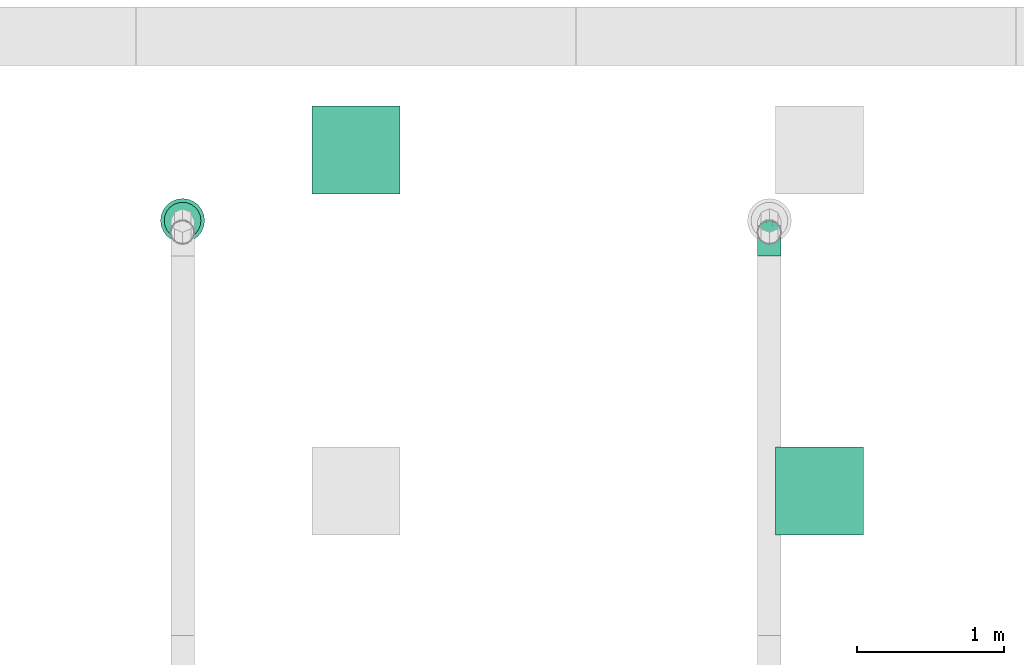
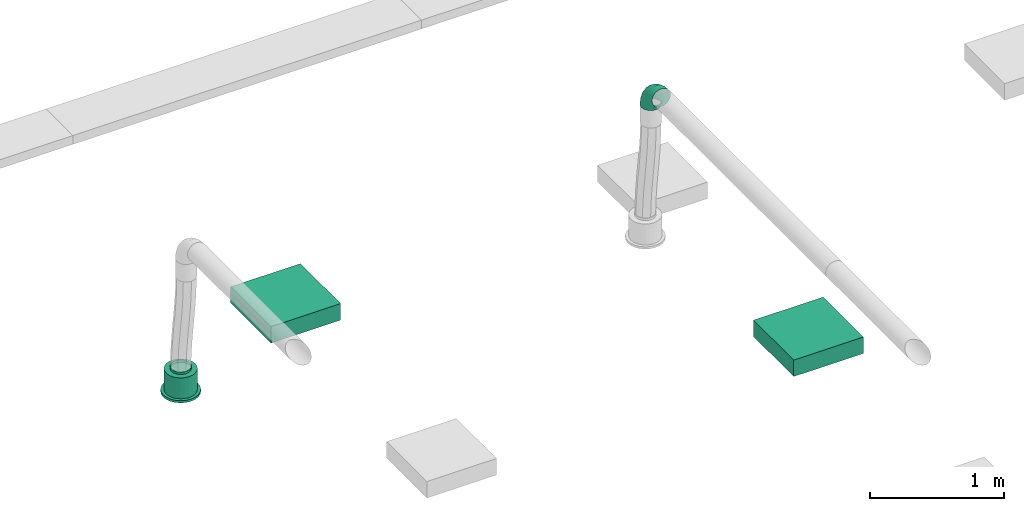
# One storey, part 43 of 374: 2 distribution elements, 1 flow fitting, 1 flow terminal.
"""IFC2X3 building model written with IfcOpenShell, lengths in metres."""

import ifcopenshell
import ifcopenshell.guid

model = None  # the IFC model being written
_history = None  # IfcOwnerHistory: only IFC2X3 demands one
_inside = {}  # id of a spatial element -> (the spatial element, [elements in it])
_under = {}  # id of a project, library or spatial element -> (it, [spatial elements below it])
_declared = {}  # id of a project -> (the project, [libraries it declares])
_typed = {}  # id of a type object -> (the type object, [elements of that type])
_made_of = {}  # id of a material, layer set ... -> (it, [elements and type objects made of it])


def new_model(schema):
    """Start an empty IFC model of exactly this schema.

    Asked for "IFC4X3", IfcOpenShell would pick the latest addendum, in which some entities
    have other attributes; the version numbers below select the first issue.
    IFC2X3 requires an IfcOwnerHistory on every rooted entity: one is made here for all.
    """
    global model, _history
    if schema == "IFC4X3":
        model = ifcopenshell.file(schema_version=(4, 3, 0, 0))
    else:
        model = ifcopenshell.file(schema=schema)
    _inside.clear()
    _under.clear()
    _declared.clear()
    _typed.clear()
    _made_of.clear()
    _history = None
    if model.schema == "IFC2X3":
        org = make("IfcOrganization", Name="unknown")
        user = make(
            "IfcPersonAndOrganization",
            ThePerson=make("IfcPerson", FamilyName="unknown"),
            TheOrganization=org,
        )
        app = make(
            "IfcApplication",
            ApplicationDeveloper=org,
            Version="unknown",
            ApplicationFullName="unknown",
            ApplicationIdentifier="unknown",
        )
        _history = make(
            "IfcOwnerHistory",
            OwningUser=user,
            OwningApplication=app,
            ChangeAction="ADDED",
            CreationDate=0,
        )
    return model


def make(cls, **values):
    """One entity of the class cls with the attributes given. An attribute that is None is left unset."""
    return model.create_entity(
        cls, **{name: value for name, value in values.items() if value is not None}
    )


def rooted(cls, **values):
    """An entity with a GlobalId (a new one), such as an element, a storey or a relation."""
    return make(cls, GlobalId=ifcopenshell.guid.new(), OwnerHistory=_history, **values)


def si_unit(unit_type, name, prefix=None):
    """IfcSIUnit, for example si_unit("LENGTHUNIT", "METRE", prefix="MILLI")."""
    return make("IfcSIUnit", UnitType=unit_type, Prefix=prefix, Name=name)


def assignment(units):
    """IfcUnitAssignment: the units of a project."""
    return None if units is None else make("IfcUnitAssignment", Units=units)


def point(xyz):
    """IfcCartesianPoint."""
    return None if xyz is None else make("IfcCartesianPoint", Coordinates=xyz)


def direction(xyz):
    """IfcDirection."""
    return None if xyz is None else make("IfcDirection", DirectionRatios=xyz)


def frame(location, z_axis=None, x_axis=None):
    """IfcAxis2Placement3D, a coordinate frame: its origin and axes. An axis left out is left unset."""
    return make(
        "IfcAxis2Placement3D",
        Location=point(location),
        Axis=direction(z_axis),
        RefDirection=direction(x_axis),
    )


def frame_2d(location, x_axis=None):
    """IfcAxis2Placement2D, a coordinate frame in the plane: its origin and x axis."""
    return make(
        "IfcAxis2Placement2D", Location=point(location), RefDirection=direction(x_axis)
    )


def origin():
    """The frame at (0, 0, 0) with its axes left unset."""
    return frame((0.0, 0.0, 0.0))


def place(relative_to, where):
    """IfcLocalPlacement: puts the frame where relative to a parent placement (None: the world)."""
    return make(
        "IfcLocalPlacement", PlacementRelTo=relative_to, RelativePlacement=where
    )


def context(
    kind, dimensions, precision=None, world=None, true_north=None, identifier=None
):
    """IfcGeometricRepresentationContext, for example the 3D "Model" context."""
    return make(
        "IfcGeometricRepresentationContext",
        ContextIdentifier=identifier,
        ContextType=kind,
        CoordinateSpaceDimension=dimensions,
        Precision=precision,
        WorldCoordinateSystem=world,
        TrueNorth=true_north,
    )


def subcontext(parent, identifier, kind, view, scale=None):
    """IfcGeometricRepresentationSubContext, for example "Body" below "Model"."""
    return make(
        "IfcGeometricRepresentationSubContext",
        ContextIdentifier=identifier,
        ContextType=kind,
        ParentContext=parent,
        TargetScale=scale,
        TargetView=view,
    )


def project(units=None, contexts=None):
    """IfcProject with its units and contexts."""
    return rooted(
        "IfcProject",
        Name="project",
        RepresentationContexts=contexts,
        UnitsInContext=assignment(units),
    )


def spatial(cls, under=None, at=None, **own):
    """A site, building, storey or space (cls), placed at a placement, below another one or the project."""
    s = rooted(cls, ObjectPlacement=at, **own)
    if under is not None:
        _under.setdefault(under.id(), (under, []))[1].append(s)
    return s


def profile(cls, at=None, kind="AREA", **sizes):
    """A parametric profile (cls). Its sizes go by their IFC names, for example OverallWidth=200.0."""
    return make(cls, ProfileType=kind, Position=at, **sizes)


def rectangle(**sizes):
    """IfcRectangleProfileDef."""
    return profile("IfcRectangleProfileDef", **sizes)


def extrude(swept, where, along, depth):
    """IfcExtrudedAreaSolid: the profile swept, set in the frame where, extruded along a direction by depth."""
    return make(
        "IfcExtrudedAreaSolid",
        SweptArea=swept,
        Position=where,
        ExtrudedDirection=direction(along),
        Depth=depth,
    )


def faces_of(points, faces, orient=None, outer=None):
    """IfcFace entities. A face is a list of loops; a loop is a list of indices into points, from 0.

    orient and outer hold one flag for each loop. By default every Orientation is true, the
    first loop of a face is its IfcFaceOuterBound and the others are IfcFaceBound.
    """
    made = []
    for i, loops in enumerate(faces):
        bounds = []
        for j, loop in enumerate(loops):
            is_outer = j == 0 if outer is None else outer[i][j]
            bounds.append(
                make(
                    "IfcFaceOuterBound" if is_outer else "IfcFaceBound",
                    Bound=make("IfcPolyLoop", Polygon=[points[k] for k in loop]),
                    Orientation=True if orient is None else orient[i][j],
                )
            )
        made.append(make("IfcFace", Bounds=bounds))
    return made


def open_shell(faces, orient=None, outer=None):
    """The faces of one IfcOpenShell. surface_model builds it on its shared points."""
    return ("IfcOpenShell", faces, orient, outer)


def surface_model(cls, points, shells):
    """IfcFaceBasedSurfaceModel or IfcShellBasedSurfaceModel (cls): surfaces that need not close."""
    shared = [point(p) for p in points]
    made = [make(c, CfsFaces=faces_of(shared, fs, o, b)) for c, fs, o, b in shells]
    if cls == "IfcFaceBasedSurfaceModel":
        return make(cls, FbsmFaces=made)
    return make(cls, SbsmBoundary=made)


def shape(context_of_items, identifier, shape_type, items):
    """IfcShapeRepresentation: the items that make up one representation, for example the "Body"."""
    return make(
        "IfcShapeRepresentation",
        ContextOfItems=context_of_items,
        RepresentationIdentifier=identifier,
        RepresentationType=shape_type,
        Items=items,
    )


def source(mapping_origin, context_of_items, identifier, shape_type, items):
    """IfcRepresentationMap: a shape defined once, which mapped items show again and again."""
    return make(
        "IfcRepresentationMap",
        MappingOrigin=mapping_origin,
        MappedRepresentation=shape(context_of_items, identifier, shape_type, items),
    )


def transform(
    local_origin,
    x_axis=None,
    y_axis=None,
    z_axis=None,
    scale=None,
    scale2=None,
    scale3=None,
    uniform=True,
):
    """IfcCartesianTransformationOperator3D, or its non-uniform kind. x_axis, y_axis, z_axis: its Axis1, 2, 3."""
    if uniform:
        return make(
            "IfcCartesianTransformationOperator3D",
            Axis1=direction(x_axis),
            Axis2=direction(y_axis),
            LocalOrigin=point(local_origin),
            Scale=scale,
            Axis3=direction(z_axis),
        )
    return make(
        "IfcCartesianTransformationOperator3DnonUniform",
        Axis1=direction(x_axis),
        Axis2=direction(y_axis),
        LocalOrigin=point(local_origin),
        Scale=scale,
        Axis3=direction(z_axis),
        Scale2=scale2,
        Scale3=scale3,
    )


def mapped(mapping_source, mapping_target):
    """IfcMappedItem: shows the shape of a source again, moved by a transform."""
    return make(
        "IfcMappedItem", MappingSource=mapping_source, MappingTarget=mapping_target
    )


def made_of(thing, what):
    """Note that an element or type object is made of a material, layer set ...; save() writes the relation."""
    if what is not None:
        _made_of.setdefault(what.id(), (what, []))[1].append(thing)
    return thing


def element(
    cls,
    number,
    at=None,
    inside=None,
    cuts=None,
    type_object=None,
    material=None,
    context=None,
    identifier="Body",
    shape_type=None,
    held_by="IfcProductDefinitionShape",
    body=None,
    shapes=None,
    **own,
):
    """One element of the class cls, such as IfcWall. Its Tag is "e" and its number.

    at: its placement. inside: the storey or other place that contains it. cuts: it is an
    opening in that element (IfcRelVoidsElement). A single representation is given by context,
    identifier, shape_type and body (its items); several are given by shapes. held_by: the class
    of the entity that holds the representations. save() writes the other relations.
    """
    e = rooted(cls, Tag="e%d" % number, ObjectPlacement=at, **own)
    if body is not None:
        shapes = [shape(context, identifier, shape_type, body)]
    if shapes is not None:
        e.Representation = make(held_by, Representations=shapes)
    if inside is not None:
        _inside.setdefault(inside.id(), (inside, []))[1].append(e)
    if cuts is not None:
        rooted(
            "IfcRelVoidsElement", RelatingBuildingElement=cuts, RelatedOpeningElement=e
        )
    if type_object is not None:
        _typed.setdefault(type_object.id(), (type_object, []))[1].append(e)
    return made_of(e, material)


def aggregate(whole, parts):
    """IfcRelAggregates: a whole, such as a stair, and the parts it consists of."""
    return rooted("IfcRelAggregates", RelatingObject=whole, RelatedObjects=parts)


def save(model, path):
    """Write the relations noted so far, then the file.

    IfcRelAggregates (storeys below a building ...), IfcRelContainedInSpatialStructure (elements
    in a storey), IfcRelDefinesByType, IfcRelAssociatesMaterial and IfcRelDeclares: one each for
    every whole, place, type object, material and project.
    """
    for whole, parts in _under.values():
        aggregate(whole, parts)
    for where, things in _inside.values():
        rooted(
            "IfcRelContainedInSpatialStructure",
            RelatedElements=things,
            RelatingStructure=where,
        )
    for kind, things in _typed.values():
        rooted("IfcRelDefinesByType", RelatedObjects=things, RelatingType=kind)
    for what, things in _made_of.values():
        rooted("IfcRelAssociatesMaterial", RelatedObjects=things, RelatingMaterial=what)
    for by, libraries in _declared.values():
        rooted("IfcRelDeclares", RelatingContext=by, RelatedDefinitions=libraries)
    model.write(path)


model = new_model("IFC2X3")

# Units and contexts
model_context = context("Model", 3, precision=1e-05, world=origin(), true_north=direction((-0.4480736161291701, 0.8939966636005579)))
body_context = subcontext(model_context, "Body", "Model", "MODEL_VIEW")
ifc_project = project(units=[si_unit("LENGTHUNIT", "METRE"), si_unit("AREAUNIT", "SQUARE_METRE"), si_unit("VOLUMEUNIT", "CUBIC_METRE"), si_unit("PLANEANGLEUNIT", "RADIAN"), si_unit("THERMODYNAMICTEMPERATUREUNIT", "KELVIN"), si_unit("MASSUNIT", "GRAM", prefix="KILO"), si_unit("TIMEUNIT", "SECOND")], contexts=[model_context])

# Site, building, storey
site_placement = place(None, origin())
site = spatial("IfcSite", under=ifc_project, at=site_placement, Name="Site 1", CompositionType="ELEMENT")
building_placement = place(site_placement, origin())
building = spatial("IfcBuilding", under=site, at=building_placement, Name="Undefined", CompositionType="ELEMENT")
storey_placement = place(building_placement, origin())
storey = spatial("IfcBuildingStorey", under=building, at=storey_placement, Name="Rez de chauss\x8ee", CompositionType="ELEMENT", Elevation=0.0)

# Flow terminal
shared_shape_1 = source(origin(), body_context, "Body", "SurfaceModel", [
    surface_model("IfcFaceBasedSurfaceModel", [(0.0, 0.0, 0.0), (0.03915785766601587, 0.0, 0.0), (0.03915785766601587, 0.020000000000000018, 0.0), (3.552713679e-15, 0.020000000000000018, 0.0), (0.07698144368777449, 0.0, -0.010134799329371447), (0.07698144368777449, 0.020000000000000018, -0.010134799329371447), (0.11089314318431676, 0.0, -0.02971372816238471), (0.11089314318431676, 0.020000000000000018, -0.02971372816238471), (0.13858192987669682, 0.0, -0.05740251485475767), (0.13858192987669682, 0.020000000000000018, -0.05740251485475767), (0.15816085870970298, 0.0, -0.09131421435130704), (0.15816085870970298, 0.020000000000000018, -0.09131421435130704), (0.16829565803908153, 0.0, -0.12913780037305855), (0.16829565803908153, 0.020000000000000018, -0.12913780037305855), (0.16829565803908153, 0.0, -0.16829565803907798), (0.16829565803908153, 0.020000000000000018, -0.16829565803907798), (0.15816085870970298, 0.0, -0.20611924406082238), (0.15816085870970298, 0.020000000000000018, -0.20611924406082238), (0.13858192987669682, 0.0, -0.24003094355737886), (0.13858192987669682, 0.020000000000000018, -0.24003094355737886), (0.11089314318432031, 0.0, -0.2677197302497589), (0.11089314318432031, 0.020000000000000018, -0.2677197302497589), (0.07698144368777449, 0.0, -0.2872986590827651), (0.07698144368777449, 0.020000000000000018, -0.2872986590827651), (0.039157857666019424, 0.0, -0.29743345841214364), (0.039157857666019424, 0.020000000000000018, -0.29743345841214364), (3.552713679e-15, 0.0, -0.29743345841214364), (3.552713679e-15, 0.020000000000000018, -0.29743345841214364), (-0.03782358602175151, 0.0, -0.2872986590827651), (-0.03782358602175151, 0.020000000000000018, -0.2872986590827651), (-0.07173528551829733, 0.0, -0.2677197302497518), (-0.07173528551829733, 0.020000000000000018, -0.2677197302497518), (-0.0994240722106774, 0.0, -0.24003094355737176), (-0.0994240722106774, 0.020000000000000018, -0.24003094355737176), (-0.11900300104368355, 0.0, -0.2061192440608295), (-0.11900300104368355, 0.020000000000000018, -0.2061192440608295), (-0.1291378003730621, 0.0, -0.16829565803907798), (-0.1291378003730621, 0.020000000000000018, -0.16829565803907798), (-0.1291378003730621, 0.0, -0.12913780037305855), (-0.1291378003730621, 0.020000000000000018, -0.12913780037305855), (-0.11900300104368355, 0.0, -0.09131421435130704), (-0.11900300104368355, 0.020000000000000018, -0.09131421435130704), (-0.0994240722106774, 0.0, -0.05740251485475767), (-0.0994240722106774, 0.020000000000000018, -0.05740251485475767), (-0.07173528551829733, 0.0, -0.029713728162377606), (-0.07173528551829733, 0.020000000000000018, -0.029713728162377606), (-0.03782358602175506, 0.0, -0.010134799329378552), (-0.03782358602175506, 0.020000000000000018, -0.010134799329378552), (0.019578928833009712, 0.0, -0.14871672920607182), (0.019578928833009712, 0.020000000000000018, -0.14871672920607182), (0.003263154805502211, 0.020000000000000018, -0.02478612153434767), (0.035894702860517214, 0.020000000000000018, -0.02478612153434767), (0.035894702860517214, 0.20999999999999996, -0.02478612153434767), (0.003263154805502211, 0.20999999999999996, -0.02478612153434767), (0.06741435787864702, 0.020000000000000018, -0.033231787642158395), (0.06741435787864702, 0.20999999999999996, -0.033231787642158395), (0.0956741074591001, 0.020000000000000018, -0.04954756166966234), (0.0956741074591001, 0.20999999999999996, -0.04954756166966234), (0.11874809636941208, 0.020000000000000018, -0.07262155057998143), (0.11874809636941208, 0.20999999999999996, -0.07262155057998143), (0.13506387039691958, 0.020000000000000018, -0.10088130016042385), (0.13506387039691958, 0.20999999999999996, -0.10088130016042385), (0.1435095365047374, 0.020000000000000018, -0.13240095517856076), (0.1435095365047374, 0.20999999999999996, -0.13240095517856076), (0.1435095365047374, 0.020000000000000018, -0.16503250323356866), (0.1435095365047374, 0.20999999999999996, -0.16503250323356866), (0.13506387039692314, 0.020000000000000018, -0.19655215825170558), (0.13506387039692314, 0.20999999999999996, -0.19655215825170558), (0.11874809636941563, 0.020000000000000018, -0.2248119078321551), (0.11874809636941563, 0.20999999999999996, -0.2248119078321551), (0.09567410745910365, 0.020000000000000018, -0.24788589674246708), (0.09567410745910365, 0.20999999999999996, -0.24788589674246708), (0.06741435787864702, 0.020000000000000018, -0.26420167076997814), (0.06741435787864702, 0.20999999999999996, -0.26420167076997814), (0.035894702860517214, 0.020000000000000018, -0.27264733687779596), (0.035894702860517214, 0.20999999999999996, -0.27264733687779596), (0.0032631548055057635, 0.020000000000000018, -0.27264733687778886), (0.0032631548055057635, 0.20999999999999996, -0.27264733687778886), (-0.028256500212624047, 0.020000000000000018, -0.26420167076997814), (-0.028256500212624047, 0.20999999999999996, -0.26420167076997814), (-0.05651624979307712, 0.020000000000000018, -0.2478858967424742), (-0.05651624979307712, 0.20999999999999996, -0.2478858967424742), (-0.07959023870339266, 0.020000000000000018, -0.2248119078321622), (-0.07959023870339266, 0.20999999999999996, -0.2248119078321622), (-0.09590601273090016, 0.020000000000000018, -0.19655215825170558), (-0.09590601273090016, 0.20999999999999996, -0.19655215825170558), (-0.10435167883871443, 0.020000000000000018, -0.16503250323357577), (-0.10435167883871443, 0.20999999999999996, -0.16503250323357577), (-0.10435167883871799, 0.020000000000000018, -0.13240095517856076), (-0.10435167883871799, 0.20999999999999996, -0.13240095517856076), (-0.09590601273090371, 0.020000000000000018, -0.10088130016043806), (-0.09590601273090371, 0.20999999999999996, -0.10088130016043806), (-0.07959023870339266, 0.020000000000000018, -0.07262155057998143), (-0.07959023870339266, 0.20999999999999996, -0.07262155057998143), (-0.056516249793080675, 0.020000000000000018, -0.04954756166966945), (-0.056516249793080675, 0.20999999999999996, -0.04954756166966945), (-0.028256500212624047, 0.020000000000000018, -0.033231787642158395), (-0.028256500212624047, 0.20999999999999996, -0.033231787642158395), (0.019578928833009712, 0.20999999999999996, -0.14871672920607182), (0.009136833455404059, 0.20999999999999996, -0.06940114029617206), (0.030021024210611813, 0.20999999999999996, -0.06940114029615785), (0.030021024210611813, 0.22999999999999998, -0.06940114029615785), (0.009136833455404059, 0.22999999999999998, -0.06940114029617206), (0.05019360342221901, 0.20999999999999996, -0.07480636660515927), (0.05019360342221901, 0.22999999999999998, -0.07480636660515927), (0.06827984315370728, 0.20999999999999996, -0.08524846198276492), (0.06827984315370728, 0.22999999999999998, -0.08524846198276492), (0.0830471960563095, 0.20999999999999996, -0.10001581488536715), (0.0830471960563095, 0.22999999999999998, -0.10001581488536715), (0.0934892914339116, 0.20999999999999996, -0.11810205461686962), (0.0934892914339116, 0.22999999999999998, -0.11810205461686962), (0.09889451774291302, 0.20999999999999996, -0.13827463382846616), (0.09889451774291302, 0.22999999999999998, -0.13827463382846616), (0.09889451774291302, 0.20999999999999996, -0.15915882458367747), (0.09889451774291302, 0.22999999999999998, -0.15915882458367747), (0.09348929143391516, 0.20999999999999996, -0.179331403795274), (0.09348929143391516, 0.22999999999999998, -0.179331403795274), (0.0830471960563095, 0.20999999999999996, -0.19741764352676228), (0.0830471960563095, 0.22999999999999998, -0.19741764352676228), (0.06827984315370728, 0.20999999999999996, -0.2121849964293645), (0.06827984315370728, 0.22999999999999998, -0.2121849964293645), (0.05019360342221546, 0.20999999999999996, -0.22262709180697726), (0.05019360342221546, 0.22999999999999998, -0.22262709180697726), (0.030021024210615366, 0.20999999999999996, -0.22803231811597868), (0.030021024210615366, 0.22999999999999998, -0.22803231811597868), (0.009136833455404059, 0.20999999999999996, -0.22803231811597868), (0.009136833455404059, 0.22999999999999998, -0.22803231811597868), (-0.011035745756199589, 0.20999999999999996, -0.22262709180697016), (-0.011035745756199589, 0.22999999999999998, -0.22262709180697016), (-0.0291219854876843, 0.20999999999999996, -0.2121849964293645), (-0.0291219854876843, 0.22999999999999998, -0.2121849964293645), (-0.043889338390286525, 0.20999999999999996, -0.19741764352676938), (-0.043889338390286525, 0.22999999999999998, -0.19741764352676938), (-0.05433143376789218, 0.20999999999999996, -0.17933140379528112), (-0.05433143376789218, 0.22999999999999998, -0.17933140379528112), (-0.05973666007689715, 0.20999999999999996, -0.15915882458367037), (-0.05973666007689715, 0.22999999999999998, -0.15915882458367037), (-0.0597366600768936, 0.20999999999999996, -0.13827463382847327), (-0.0597366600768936, 0.22999999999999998, -0.13827463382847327), (-0.05433143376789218, 0.20999999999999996, -0.11810205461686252), (-0.05433143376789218, 0.22999999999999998, -0.11810205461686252), (-0.043889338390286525, 0.20999999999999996, -0.10001581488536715), (-0.043889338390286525, 0.22999999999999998, -0.10001581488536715), (-0.02912198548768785, 0.20999999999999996, -0.08524846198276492), (-0.02912198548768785, 0.22999999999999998, -0.08524846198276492), (-0.011035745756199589, 0.20999999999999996, -0.07480636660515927), (-0.011035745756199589, 0.22999999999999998, -0.07480636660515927)], [open_shell([[[0, 1, 2, 3]], [[1, 4, 5, 2]], [[4, 6, 7, 5]], [[6, 8, 9, 7]], [[8, 10, 11, 9]], [[10, 12, 13, 11]], [[12, 14, 15, 13]], [[14, 16, 17, 15]], [[16, 18, 19, 17]], [[18, 20, 21, 19]], [[20, 22, 23, 21]], [[22, 24, 25, 23]], [[24, 26, 27, 25]], [[26, 28, 29, 27]], [[28, 30, 31, 29]], [[30, 32, 33, 31]], [[32, 34, 35, 33]], [[34, 36, 37, 35]], [[36, 38, 39, 37]], [[38, 40, 41, 39]], [[40, 42, 43, 41]], [[42, 44, 45, 43]], [[44, 46, 47, 45]], [[46, 0, 3, 47]], [[48, 1, 0]], [[48, 4, 1]], [[48, 6, 4]], [[48, 8, 6]], [[48, 10, 8]], [[48, 12, 10]], [[48, 14, 12]], [[48, 16, 14]], [[48, 18, 16]], [[48, 20, 18]], [[48, 22, 20]], [[48, 24, 22]], [[48, 26, 24]], [[48, 28, 26]], [[48, 30, 28]], [[48, 32, 30]], [[48, 34, 32]], [[48, 36, 34]], [[48, 38, 36]], [[48, 40, 38]], [[48, 42, 40]], [[48, 44, 42]], [[48, 46, 44]], [[48, 0, 46]], [[49, 47, 3]], [[49, 45, 47]], [[49, 43, 45]], [[49, 41, 43]], [[49, 39, 41]], [[49, 37, 39]], [[49, 35, 37]], [[49, 33, 35]], [[49, 31, 33]], [[49, 29, 31]], [[49, 27, 29]], [[49, 25, 27]], [[49, 23, 25]], [[49, 21, 23]], [[49, 19, 21]], [[49, 17, 19]], [[49, 15, 17]], [[49, 13, 15]], [[49, 11, 13]], [[49, 9, 11]], [[49, 7, 9]], [[49, 5, 7]], [[49, 2, 5]], [[49, 3, 2]], [[50, 51, 52, 53]], [[51, 54, 55, 52]], [[54, 56, 57, 55]], [[56, 58, 59, 57]], [[58, 60, 61, 59]], [[60, 62, 63, 61]], [[62, 64, 65, 63]], [[64, 66, 67, 65]], [[66, 68, 69, 67]], [[68, 70, 71, 69]], [[70, 72, 73, 71]], [[72, 74, 75, 73]], [[74, 76, 77, 75]], [[76, 78, 79, 77]], [[78, 80, 81, 79]], [[80, 82, 83, 81]], [[82, 84, 85, 83]], [[84, 86, 87, 85]], [[86, 88, 89, 87]], [[88, 90, 91, 89]], [[90, 92, 93, 91]], [[92, 94, 95, 93]], [[94, 96, 97, 95]], [[96, 50, 53, 97]], [[49, 51, 50]], [[49, 54, 51]], [[49, 56, 54]], [[49, 58, 56]], [[49, 60, 58]], [[49, 62, 60]], [[49, 64, 62]], [[49, 66, 64]], [[49, 68, 66]], [[49, 70, 68]], [[49, 72, 70]], [[49, 74, 72]], [[49, 76, 74]], [[49, 78, 76]], [[49, 80, 78]], [[49, 82, 80]], [[49, 84, 82]], [[49, 86, 84]], [[49, 88, 86]], [[49, 90, 88]], [[49, 92, 90]], [[49, 94, 92]], [[49, 96, 94]], [[49, 50, 96]], [[98, 97, 53]], [[98, 95, 97]], [[98, 93, 95]], [[98, 91, 93]], [[98, 89, 91]], [[98, 87, 89]], [[98, 85, 87]], [[98, 83, 85]], [[98, 81, 83]], [[98, 79, 81]], [[98, 77, 79]], [[98, 75, 77]], [[98, 73, 75]], [[98, 71, 73]], [[98, 69, 71]], [[98, 67, 69]], [[98, 65, 67]], [[98, 63, 65]], [[98, 61, 63]], [[98, 59, 61]], [[98, 57, 59]], [[98, 55, 57]], [[98, 52, 55]], [[98, 53, 52]], [[99, 100, 101, 102]], [[100, 103, 104, 101]], [[103, 105, 106, 104]], [[105, 107, 108, 106]], [[107, 109, 110, 108]], [[109, 111, 112, 110]], [[111, 113, 114, 112]], [[113, 115, 116, 114]], [[115, 117, 118, 116]], [[117, 119, 120, 118]], [[119, 121, 122, 120]], [[121, 123, 124, 122]], [[123, 125, 126, 124]], [[125, 127, 128, 126]], [[127, 129, 130, 128]], [[129, 131, 132, 130]], [[131, 133, 134, 132]], [[133, 135, 136, 134]], [[135, 137, 138, 136]], [[137, 139, 140, 138]], [[139, 141, 142, 140]], [[141, 143, 144, 142]], [[143, 145, 146, 144]], [[145, 99, 102, 146]]])]),
])
flow_terminal_placement = place(storey_placement, origin())
element("IfcFlowTerminal", 1, at=flow_terminal_placement, inside=storey, Name="Air diffuseur - bouche", ObjectType="Air diffuseur - bouche", context=body_context, shape_type="MappedRepresentation", body=[
    mapped(shared_shape_1, transform((18.980053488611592, 16.80529701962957, 2.38), x_axis=(0.9914448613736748, 0.13052619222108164, 0.0), y_axis=(0.0, 0.0, 1.0), z_axis=(0.13052619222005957, -0.9914448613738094, 0.0))),
])

# Flow fitting
shared_shape_2 = source(origin(), body_context, "Body", "SurfaceModel", [
    surface_model("IfcFaceBasedSurfaceModel", [(0.06265257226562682, -8.8817842e-16, 0.0), (0.062296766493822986, 0.02088115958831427, -7.105427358e-15), (0.0003558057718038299, 0.020881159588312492, 7.105427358e-15), (0.0, 0.0, 0.0), (-0.059474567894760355, 0.022956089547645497, -0.015896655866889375), (-0.06051773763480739, 0.002098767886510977, -0.01607928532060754), (-0.11311701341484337, 0.02696454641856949, -0.04660663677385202), (-0.11477645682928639, 0.006153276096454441, -0.04714207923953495), (-0.15691588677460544, 0.0326333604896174, -0.09003710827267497), (-0.15907851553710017, 0.01188721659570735, -0.09107150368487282), (-0.18788636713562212, 0.03957621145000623, -0.14322835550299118), (-0.1904048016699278, 0.01890983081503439, -0.14487384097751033), (-0.2039178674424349, 0.04731995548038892, -0.20255548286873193), (-0.20662048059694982, 0.026742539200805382, -0.20488255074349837), (0.061253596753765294, 0.04103889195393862, -0.0053597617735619), (0.0013989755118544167, 0.04103889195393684, -0.005359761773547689), (-0.05641614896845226, 0.04304393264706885, -0.02072097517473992), (-0.10825177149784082, 0.04691737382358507, -0.050396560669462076), (-0.15057538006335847, 0.05239524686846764, -0.09236417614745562), (-0.18050269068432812, 0.05910424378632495, -0.14376379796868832), (-0.19599420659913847, 0.06658715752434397, -0.20109262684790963), (0.05959415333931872, 0.05909948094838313, -0.01571402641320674), (0.003058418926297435, 0.05909948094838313, -0.01571402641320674), (-0.05155090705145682, 0.06099334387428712, -0.030223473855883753), (-0.10051228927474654, 0.06465200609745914, -0.058253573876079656), (-0.1404890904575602, 0.0698261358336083, -0.09789412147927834), (-0.16875695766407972, 0.0761631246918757, -0.14644367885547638), (-0.18338948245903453, 0.08323111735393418, -0.2005936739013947), (0.057431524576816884, 0.07383212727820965, -0.030357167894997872), (0.005221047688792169, 0.07383212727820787, -0.03035716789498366), (-0.0452104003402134, 0.07558110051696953, -0.04375657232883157), (-0.09042599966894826, 0.07895985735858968, -0.06964223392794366), (-0.12734438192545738, 0.08373814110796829, -0.10625008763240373), (-0.15344962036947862, 0.08959031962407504, -0.15108536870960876), (-0.16696268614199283, 0.0961175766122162, -0.20109262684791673), (0.054913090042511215, 0.0842328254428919, -0.048291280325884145), (0.007739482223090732, 0.08423282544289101, -0.04829128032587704), (-0.037826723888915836, 0.08581307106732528, -0.06039801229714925), (-0.07868026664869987, 0.08886587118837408, -0.08378642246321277), (-0.11203704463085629, 0.09318318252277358, -0.11686262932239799), (-0.13562384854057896, 0.09847078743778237, -0.1573725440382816), (-0.14783327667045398, 0.10436834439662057, -0.20255548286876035), (0.05221047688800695, 0.0895927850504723, -0.06829418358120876), (0.010442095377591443, 0.08959278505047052, -0.06829418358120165), (-0.029903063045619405, 0.09099196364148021, -0.07901370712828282), (-0.06607554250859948, 0.09369496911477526, -0.0997222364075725), (-0.0956102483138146, 0.0975175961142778, -0.12900851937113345), (-0.11649443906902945, 0.10219933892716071, -0.16487674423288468), (-0.12730489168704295, 0.1074211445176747, -0.2048825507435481), (0.04950786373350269, 0.08954673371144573, -0.08900271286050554), (0.013144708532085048, 0.08954673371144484, -0.08900271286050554), (-0.02197940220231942, 0.09076484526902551, -0.09833502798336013), (-0.05347081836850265, 0.09311805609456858, -0.11636367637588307), (-0.0791834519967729, 0.09644599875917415, -0.14186003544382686), (-0.09736502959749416, 0.10052187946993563, -0.17308657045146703), (-0.10677650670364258, 0.1050679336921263, -0.20791524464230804), (0.04698942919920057, 0.08409780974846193, -0.10900561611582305), (0.015663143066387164, 0.08409780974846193, -0.10900561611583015), (-0.014595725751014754, 0.08514719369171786, -0.11704525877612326), (-0.0417250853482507, 0.0871744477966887, -0.13257665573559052), (-0.06387611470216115, 0.09004141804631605, -0.15454136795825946), (-0.07953925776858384, 0.09355272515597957, -0.1814425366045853), (-0.08764709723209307, 0.09746907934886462, -0.21144689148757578), (0.04482680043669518, 0.0736173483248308, -0.12693972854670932), (0.017825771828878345, 0.0736173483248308, -0.12693972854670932), (-0.008255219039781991, 0.07452184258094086, -0.13386932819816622), (-0.03163879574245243, 0.0762691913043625, -0.14725628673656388), (-0.050731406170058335, 0.07874031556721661, -0.1661883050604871), (-0.06423192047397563, 0.08176681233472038, -0.18937519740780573), (-0.07122030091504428, 0.08514243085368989, -0.21523681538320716), (0.04316735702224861, 0.058819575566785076, -0.14158287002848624), (0.019485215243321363, 0.058819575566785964, -0.14158287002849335), (-0.0033899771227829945, 0.05961289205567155, -0.14766070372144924), (-0.02389931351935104, 0.06114546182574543, -0.15940217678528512), (-0.04064511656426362, 0.06331284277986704, -0.17600712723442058), (-0.052486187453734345, 0.06596733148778, -0.19634395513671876), (-0.05861557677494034, 0.06892802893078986, -0.2190267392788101), (0.04212418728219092, 0.040712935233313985, -0.15193713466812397), (0.020528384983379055, 0.040712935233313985, -0.15193713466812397), (-0.0003315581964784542, 0.041436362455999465, -0.15747952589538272), (-0.019034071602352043, 0.04283391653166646, -0.16818660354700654), (-0.03430460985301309, 0.04481035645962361, -0.1833286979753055), (-0.04510251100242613, 0.047230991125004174, -0.20187390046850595), (-0.05069191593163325, 0.04993085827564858, -0.22255838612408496), (0.04176838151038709, 0.02053136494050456, -0.15729689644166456), (0.020884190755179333, 0.02053136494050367, -0.15729689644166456), (0.0007116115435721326, 0.021230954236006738, -0.16265665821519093), (-0.017374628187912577, 0.022582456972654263, -0.17301092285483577), (-0.03214198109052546, 0.024493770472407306, -0.1876540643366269), (-0.042584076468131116, 0.026834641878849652, -0.20558817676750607), (-0.04798930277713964, 0.02944554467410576, -0.22559108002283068), (0.04212418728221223, -0.000349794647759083, -0.15729689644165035), (0.020528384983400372, -0.000349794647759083, -0.15729689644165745), (-0.0003315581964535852, 0.00037363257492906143, -0.1628392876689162), (-0.019034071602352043, 0.0017711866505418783, -0.17354636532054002), (-0.03430460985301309, 0.0037476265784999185, -0.18868845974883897), (-0.04510251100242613, 0.00616826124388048, -0.20723366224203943), (-0.05069191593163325, 0.008868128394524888, -0.22791814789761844), (0.04316735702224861, -0.020507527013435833, -0.15193713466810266), (0.019485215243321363, -0.020507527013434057, -0.15193713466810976), (-0.0033899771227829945, -0.019714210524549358, -0.15801496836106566), (-0.02389931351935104, -0.01818164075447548, -0.16975644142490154), (-0.04064511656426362, -0.01601425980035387, -0.186361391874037), (-0.052486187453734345, -0.013359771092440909, -0.20669821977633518), (-0.05861557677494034, -0.010399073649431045, -0.22938100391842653), (0.04482680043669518, -0.03856811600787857, -0.1415828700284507), (0.017825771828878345, -0.03856811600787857, -0.1415828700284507), (-0.008255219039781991, -0.03766362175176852, -0.1485124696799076), (-0.03163879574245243, -0.03591627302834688, -0.16189942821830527), (-0.050731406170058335, -0.03344514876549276, -0.1808314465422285), (-0.06423192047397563, -0.030418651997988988, -0.20401833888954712), (-0.07122030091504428, -0.027043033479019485, -0.22987995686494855), (0.04698942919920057, -0.05330076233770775, -0.12693972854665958), (0.015663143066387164, -0.05330076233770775, -0.12693972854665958), (-0.014595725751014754, -0.05225137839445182, -0.1349793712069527), (-0.0417250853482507, -0.05022412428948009, -0.15051076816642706), (-0.06387611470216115, -0.047357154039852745, -0.172475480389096), (-0.07953925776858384, -0.043845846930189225, -0.19937664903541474), (-0.08764709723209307, -0.03992949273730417, -0.2293810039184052), (0.04950786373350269, -0.06370146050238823, -0.10900561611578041), (0.013144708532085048, -0.06370146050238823, -0.10900561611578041), (-0.02197940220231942, -0.06248334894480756, -0.11833793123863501), (-0.05347081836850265, -0.06013013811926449, -0.13636657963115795), (-0.0791834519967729, -0.05680219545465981, -0.16186293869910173), (-0.09736502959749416, -0.05272631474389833, -0.1930894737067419), (-0.10677650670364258, -0.04818026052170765, -0.2279181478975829), (0.05221047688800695, -0.06906142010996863, -0.08900271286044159), (0.010442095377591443, -0.06906142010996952, -0.08900271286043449), (-0.029903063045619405, -0.06766224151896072, -0.09972223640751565), (-0.06607554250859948, -0.06495923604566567, -0.12043076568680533), (-0.0956102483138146, -0.06113660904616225, -0.14971704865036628), (-0.11649443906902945, -0.05645486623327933, -0.1855852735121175), (-0.12730489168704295, -0.05123306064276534, -0.22559108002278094), (0.054913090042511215, -0.06901536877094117, -0.06829418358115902), (0.007739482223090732, -0.06901536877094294, -0.06829418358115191), (-0.037826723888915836, -0.06743512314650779, -0.08040091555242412), (-0.07868026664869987, -0.06438232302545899, -0.10378932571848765), (-0.11203704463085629, -0.06006501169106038, -0.13686553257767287), (-0.13562384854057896, -0.0547774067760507, -0.17737544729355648), (-0.14783327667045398, -0.04887984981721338, -0.22255838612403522), (0.057431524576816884, -0.06356644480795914, -0.0482912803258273), (0.005221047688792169, -0.06356644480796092, -0.04829128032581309), (-0.0452104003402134, -0.061817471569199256, -0.0616906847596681), (-0.09042599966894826, -0.05843871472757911, -0.0875763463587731), (-0.12734438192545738, -0.05366043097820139, -0.12418420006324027), (-0.15344962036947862, -0.04780825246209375, -0.1690194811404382), (-0.16696268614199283, -0.041280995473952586, -0.21902673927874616), (0.05959415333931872, -0.05308598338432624, -0.030357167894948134), (0.003058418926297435, -0.05308598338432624, -0.030357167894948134), (-0.05155090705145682, -0.05119212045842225, -0.04486661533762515), (-0.10051228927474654, -0.04753345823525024, -0.07289671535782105), (-0.1404890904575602, -0.04235932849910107, -0.11253726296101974), (-0.16875695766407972, -0.03602233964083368, -0.16108682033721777), (-0.18338948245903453, -0.02895434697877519, -0.2152368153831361), (0.061253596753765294, -0.03828821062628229, -0.015714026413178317), (0.0013989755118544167, -0.03828821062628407, -0.015714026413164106), (-0.05641614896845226, -0.03628316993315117, -0.031075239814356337), (-0.10825177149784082, -0.03240972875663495, -0.06075082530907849), (-0.15057538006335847, -0.026931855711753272, -0.10271844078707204), (-0.18050269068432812, -0.02022285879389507, -0.15411806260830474), (-0.19599420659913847, -0.012739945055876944, -0.21144689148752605), (0.062296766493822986, -0.020181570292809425, -0.005359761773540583), (0.0003558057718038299, -0.020181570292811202, -0.0053597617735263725), (-0.059474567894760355, -0.018106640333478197, -0.021256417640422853), (-0.11311701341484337, -0.014098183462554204, -0.051966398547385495), (-0.15691588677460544, -0.00842936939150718, -0.09539687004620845), (-0.18788636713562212, -0.0014865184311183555, -0.14858811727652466), (-0.2039178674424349, 0.006257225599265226, -0.2079152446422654)], [open_shell([[[0, 1, 2, 3]], [[3, 2, 4, 5]], [[5, 4, 6, 7]], [[7, 6, 8, 9]], [[9, 8, 10, 11]], [[11, 10, 12, 13]], [[1, 14, 15, 2]], [[2, 15, 16, 4]], [[4, 16, 17, 6]], [[6, 17, 18, 8]], [[8, 18, 19, 10]], [[10, 19, 20, 12]], [[14, 21, 22, 15]], [[15, 22, 23, 16]], [[16, 23, 24, 17]], [[17, 24, 25, 18]], [[18, 25, 26, 19]], [[19, 26, 27, 20]], [[21, 28, 29, 22]], [[22, 29, 30, 23]], [[23, 30, 31, 24]], [[24, 31, 32, 25]], [[25, 32, 33, 26]], [[26, 33, 34, 27]], [[28, 35, 36, 29]], [[29, 36, 37, 30]], [[30, 37, 38, 31]], [[31, 38, 39, 32]], [[32, 39, 40, 33]], [[33, 40, 41, 34]], [[35, 42, 43, 36]], [[36, 43, 44, 37]], [[37, 44, 45, 38]], [[38, 45, 46, 39]], [[39, 46, 47, 40]], [[40, 47, 48, 41]], [[42, 49, 50, 43]], [[43, 50, 51, 44]], [[44, 51, 52, 45]], [[45, 52, 53, 46]], [[46, 53, 54, 47]], [[47, 54, 55, 48]], [[49, 56, 57, 50]], [[50, 57, 58, 51]], [[51, 58, 59, 52]], [[52, 59, 60, 53]], [[53, 60, 61, 54]], [[54, 61, 62, 55]], [[56, 63, 64, 57]], [[57, 64, 65, 58]], [[58, 65, 66, 59]], [[59, 66, 67, 60]], [[60, 67, 68, 61]], [[61, 68, 69, 62]], [[63, 70, 71, 64]], [[64, 71, 72, 65]], [[65, 72, 73, 66]], [[66, 73, 74, 67]], [[67, 74, 75, 68]], [[68, 75, 76, 69]], [[70, 77, 78, 71]], [[71, 78, 79, 72]], [[72, 79, 80, 73]], [[73, 80, 81, 74]], [[74, 81, 82, 75]], [[75, 82, 83, 76]], [[77, 84, 85, 78]], [[78, 85, 86, 79]], [[79, 86, 87, 80]], [[80, 87, 88, 81]], [[81, 88, 89, 82]], [[82, 89, 90, 83]], [[84, 91, 92, 85]], [[85, 92, 93, 86]], [[86, 93, 94, 87]], [[87, 94, 95, 88]], [[88, 95, 96, 89]], [[89, 96, 97, 90]], [[91, 98, 99, 92]], [[92, 99, 100, 93]], [[93, 100, 101, 94]], [[94, 101, 102, 95]], [[95, 102, 103, 96]], [[96, 103, 104, 97]], [[98, 105, 106, 99]], [[99, 106, 107, 100]], [[100, 107, 108, 101]], [[101, 108, 109, 102]], [[102, 109, 110, 103]], [[103, 110, 111, 104]], [[105, 112, 113, 106]], [[106, 113, 114, 107]], [[107, 114, 115, 108]], [[108, 115, 116, 109]], [[109, 116, 117, 110]], [[110, 117, 118, 111]], [[112, 119, 120, 113]], [[113, 120, 121, 114]], [[114, 121, 122, 115]], [[115, 122, 123, 116]], [[116, 123, 124, 117]], [[117, 124, 125, 118]], [[119, 126, 127, 120]], [[120, 127, 128, 121]], [[121, 128, 129, 122]], [[122, 129, 130, 123]], [[123, 130, 131, 124]], [[124, 131, 132, 125]], [[126, 133, 134, 127]], [[127, 134, 135, 128]], [[128, 135, 136, 129]], [[129, 136, 137, 130]], [[130, 137, 138, 131]], [[131, 138, 139, 132]], [[133, 140, 141, 134]], [[134, 141, 142, 135]], [[135, 142, 143, 136]], [[136, 143, 144, 137]], [[137, 144, 145, 138]], [[138, 145, 146, 139]], [[140, 147, 148, 141]], [[141, 148, 149, 142]], [[142, 149, 150, 143]], [[143, 150, 151, 144]], [[144, 151, 152, 145]], [[145, 152, 153, 146]], [[147, 154, 155, 148]], [[148, 155, 156, 149]], [[149, 156, 157, 150]], [[150, 157, 158, 151]], [[151, 158, 159, 152]], [[152, 159, 160, 153]], [[154, 161, 162, 155]], [[155, 162, 163, 156]], [[156, 163, 164, 157]], [[157, 164, 165, 158]], [[158, 165, 166, 159]], [[159, 166, 167, 160]], [[161, 0, 3, 162]], [[162, 3, 5, 163]], [[163, 5, 7, 164]], [[164, 7, 9, 165]], [[165, 9, 11, 166]], [[166, 11, 13, 167]]])]),
])
flow_fitting_placement = place(storey_placement, origin())
element("IfcFlowFitting", 2, at=flow_fitting_placement, inside=storey, Name="Coude", ObjectType="Coude", context=body_context, shape_type="MappedRepresentation", body=[
    mapped(shared_shape_2, transform((22.98005357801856, 16.947119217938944, 3.7021165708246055), x_axis=(0.0, 0.13052619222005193, -0.9914448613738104), y_axis=(-0.9915887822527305, -0.12832103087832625, -0.016893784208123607), z_axis=(-0.12942830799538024, 0.9831056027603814, 0.12942830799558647))),
])

# Distribution elements
distribution_element_1_placement = place(storey_placement, origin())
element("IfcDistributionElement", 3, at=distribution_element_1_placement, inside=storey, Name="Decken-Rechteckleuchte mit Rahmen AP", ObjectType="Decken-Rechteckleuchte mit Rahmen AP", context=body_context, shape_type="SweptSolid", body=[
    extrude(rectangle(XDim=0.6000000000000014, YDim=0.6000000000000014, at=frame_2d((3.552713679e-15, 0.0), x_axis=(0.0, 1.0))), frame((23.320441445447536, 15.1125, 2.5500000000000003), z_axis=(0.0, 0.0, -1.0), x_axis=(1.0, 0.0, 0.0)), (0.0, 0.0, 1.0), 0.15),
])
distribution_element_2_placement = place(storey_placement, origin())
element("IfcDistributionElement", 4, at=distribution_element_2_placement, inside=storey, Name="Decken-Rechteckleuchte mit Rahmen AP", ObjectType="Decken-Rechteckleuchte mit Rahmen AP", context=body_context, shape_type="SweptSolid", body=[
    extrude(rectangle(XDim=0.6000000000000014, YDim=0.6000000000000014, at=frame_2d((3.552713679e-15, 0.0), x_axis=(0.0, 1.0))), frame((20.162599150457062, 17.437499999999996, 2.5500000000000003), z_axis=(0.0, 0.0, -1.0), x_axis=(1.0, 0.0, 0.0)), (0.0, 0.0, 1.0), 0.15),
])

save(model, "model.ifc")
